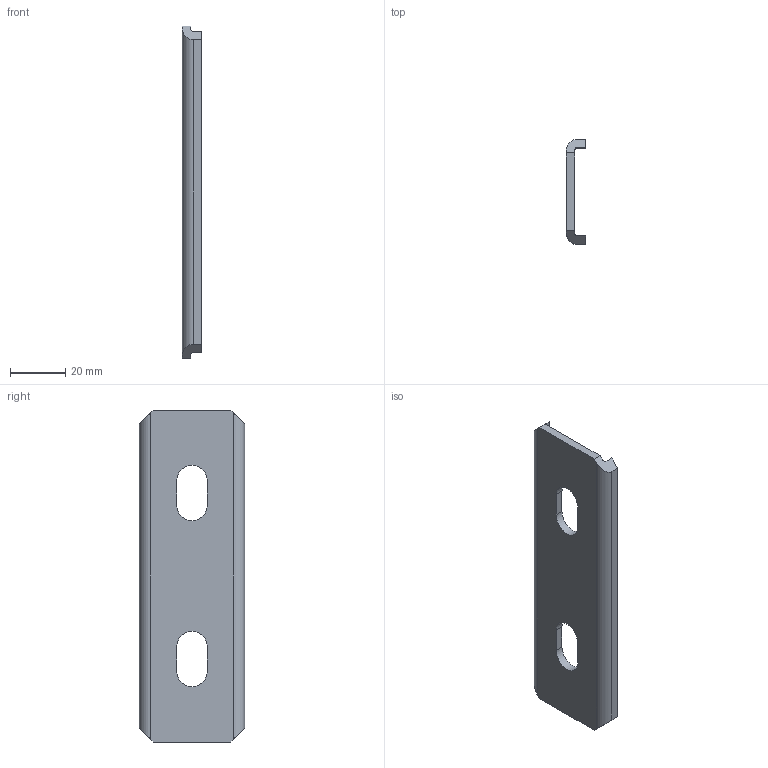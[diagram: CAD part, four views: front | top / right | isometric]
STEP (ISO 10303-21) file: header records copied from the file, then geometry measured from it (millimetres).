
FILE_DESCRIPTION(('Creo Elements/Direct Modeling STEP Export'),'2;1');
FILE_NAME('SLV.stp','2018-02-05T12:01:00',(''),(''),'Creo Elements/Direct Modeling STEP processor for AP214 (Solid Model)','Creo Elements/Direct Modeling 19.0G 27-Nov-2017 (C) Parametric Technology GmbH','');
FILE_SCHEMA(('AUTOMOTIVE_DESIGN { 1 0 10303 214 1 1 1 1 }'));
Length unit declared in the file: millimetre
Products named in the file (1): SLV-K
Bounding box: 7 x 38 x 120 mm (x, y, z)
Volume: 14360.1 mm3; surface area: 10857.3 mm2
Topology: 1 solids, 1 shells, 26 faces, 72 edges, 48 vertices
Faces by surface type: plane 18, cylinder 8
Entity records: 862 total; most frequent: CARTESIAN_POINT 147, ORIENTED_EDGE 144, DIRECTION 142, EDGE_CURVE 72, VECTOR 56, LINE 56, VERTEX_POINT 48, AXIS2_PLACEMENT_3D 43
